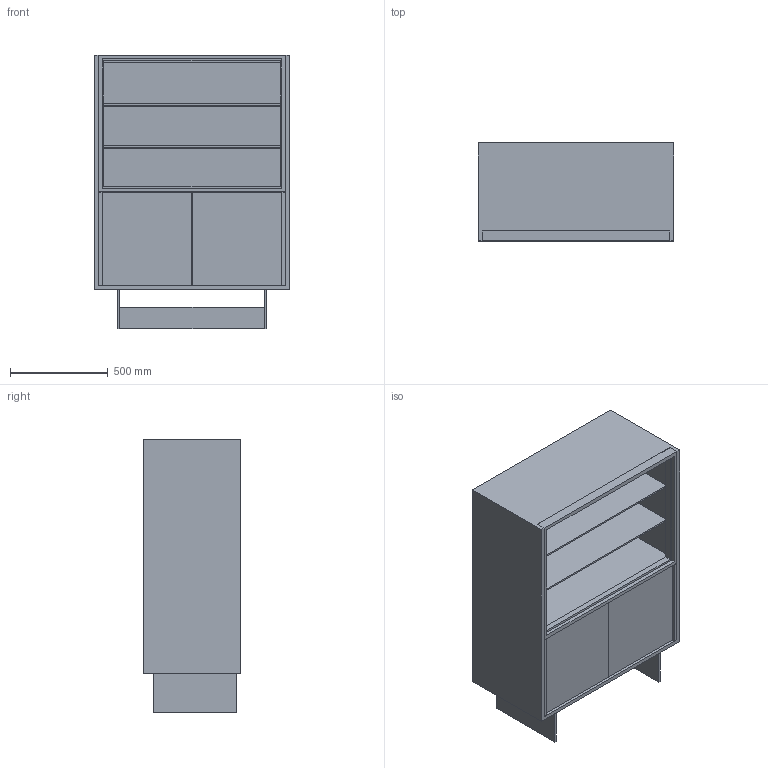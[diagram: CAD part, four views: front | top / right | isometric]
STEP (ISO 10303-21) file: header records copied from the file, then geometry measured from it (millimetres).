
FILE_DESCRIPTION(/* description */ (''),/* implementation_level */ '2;1');
FILE_NAME(/* name */ 'CWSSVR~G',/* time_stamp */ '2025-09-05T14:53:22+02:00',/* author */ (''),/* organization */ (''),/* preprocessor_version */ 'ST-DEVELOPER v15',/* originating_system */ '',/* authorisation */ '');
FILE_SCHEMA (('AUTOMOTIVE_DESIGN'));
Length unit declared in the file: centimetre
Products named in the file (1): Document
Bounding box: 1000 x 500 x 1400 mm (x, y, z)
Volume: 199763140.7 mm3; surface area: 15911049.3 mm2
Topology: 16 solids, 20 shells, 122 faces, 274 edges, 188 vertices
Faces by surface type: plane 122
Entity records: 3085 total; most frequent: CARTESIAN_POINT 861, ORIENTED_EDGE 532, EDGE_CURVE 274, B_SPLINE_CURVE_WITH_KNOTS 274, VERTEX_POINT 188, DIRECTION 128, EDGE_LOOP 126, AXIS2_PLACEMENT_3D 125
